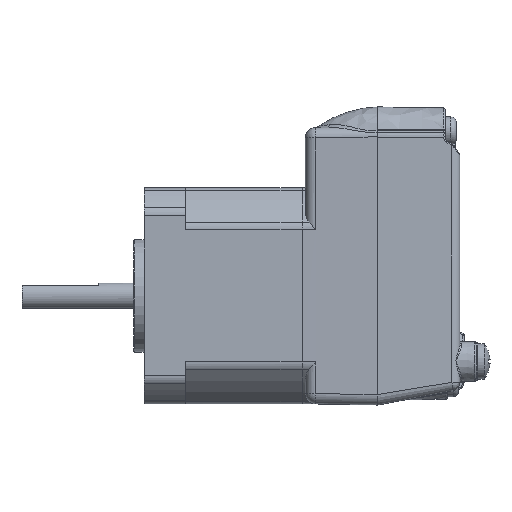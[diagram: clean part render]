
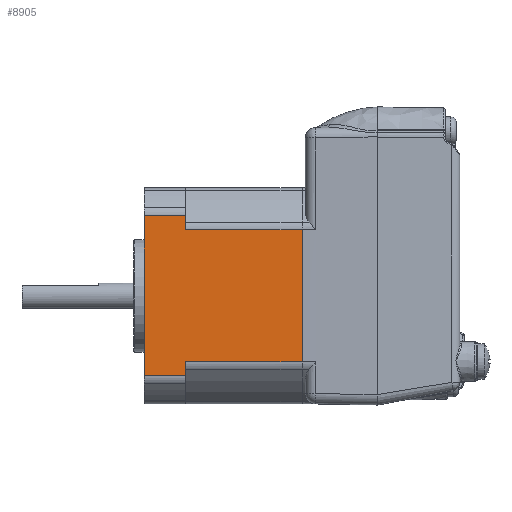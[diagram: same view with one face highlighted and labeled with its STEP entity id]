
A CAD part, left-side view. The second image highlights one B-rep face of the part: STEP entity #8905.
In plain terms, the highlighted planar face has unit normal (-1, 0, 0).
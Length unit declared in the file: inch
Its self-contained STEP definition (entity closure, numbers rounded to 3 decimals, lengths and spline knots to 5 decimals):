
#3035=CARTESIAN_POINT('',(-1.68441,2.4548,0.56285));
#3036=VERTEX_POINT('',#3035);
#3044=CARTESIAN_POINT('',(-1.68441,2.4548,0.45634));
#3045=VERTEX_POINT('',#3044);
#3046=CARTESIAN_POINT('',(-1.68441,2.4548,0.57473));
#3047=DIRECTION('',(0.,0.,1.));
#3048=VECTOR('',#3047,1.);
#3049=LINE('',#3046,#3048);
#3050=EDGE_CURVE('',#3045,#3036,#3049,.T.);
#3143=CARTESIAN_POINT('',(-1.68441,2.4548,-0.66862));
#3144=VERTEX_POINT('',#3143);
#3145=CARTESIAN_POINT('',(-1.68441,2.4548,-0.5621));
#3146=VERTEX_POINT('',#3145);
#3147=CARTESIAN_POINT('',(-1.68441,2.4548,0.57473));
#3148=DIRECTION('',(0.,0.,1.));
#3149=VECTOR('',#3148,1.);
#3150=LINE('',#3147,#3149);
#3151=EDGE_CURVE('',#3144,#3146,#3150,.T.);
#3297=CARTESIAN_POINT('',(-1.68441,2.7718,-0.66862));
#3298=VERTEX_POINT('',#3297);
#3306=CARTESIAN_POINT('',(-1.68441,2.7718,0.56285));
#3307=VERTEX_POINT('',#3306);
#3308=CARTESIAN_POINT('',(-1.68441,2.7718,0.57473));
#3309=DIRECTION('',(0.,0.,1.));
#3310=VECTOR('',#3309,1.);
#3311=LINE('',#3308,#3310);
#3312=EDGE_CURVE('',#3298,#3307,#3311,.T.);
#3444=CARTESIAN_POINT('',(-1.68441,2.7718,0.56285));
#3445=DIRECTION('',(0.,-1.,0.));
#3446=VECTOR('',#3445,1.);
#3447=LINE('',#3444,#3446);
#3448=EDGE_CURVE('',#3307,#3036,#3447,.T.);
#3737=CARTESIAN_POINT('',(-1.68441,2.7718,-0.66862));
#3738=DIRECTION('',(0.,1.,0.));
#3739=VECTOR('',#3738,1.);
#3740=LINE('',#3737,#3739);
#3741=EDGE_CURVE('',#3144,#3298,#3740,.T.);
#8598=CARTESIAN_POINT('',(-1.68444,1.55474,-0.5621));
#8599=VERTEX_POINT('',#8598);
#8600=CARTESIAN_POINT('',(-1.68441,1.57521,-0.5621));
#8601=DIRECTION('',(0.,1.,0.));
#8602=VECTOR('',#8601,1.);
#8603=LINE('',#8600,#8602);
#8604=EDGE_CURVE('',#8599,#3146,#8603,.T.);
#8854=CARTESIAN_POINT('',(-1.68438,1.55474,0.45633));
#8855=VERTEX_POINT('',#8854);
#8856=CARTESIAN_POINT('',(-1.68441,1.70281,0.45634));
#8857=DIRECTION('',(0.,1.,0.));
#8858=VECTOR('',#8857,1.);
#8859=LINE('',#8856,#8858);
#8860=EDGE_CURVE('',#8855,#3045,#8859,.T.);
#8885=ORIENTED_EDGE('',*,*,#3312,.F.);
#8886=ORIENTED_EDGE('',*,*,#3741,.F.);
#8887=ORIENTED_EDGE('',*,*,#3151,.T.);
#8888=ORIENTED_EDGE('',*,*,#8604,.F.);
#8889=CARTESIAN_POINT('',(-1.68438,1.55474,-0.33949));
#8890=DIRECTION('',(0.,0.,-1.));
#8891=VECTOR('',#8890,1.);
#8892=LINE('',#8889,#8891);
#8893=EDGE_CURVE('',#8855,#8599,#8892,.T.);
#8894=ORIENTED_EDGE('',*,*,#8893,.F.);
#8895=ORIENTED_EDGE('',*,*,#8860,.T.);
#8896=ORIENTED_EDGE('',*,*,#3050,.T.);
#8897=ORIENTED_EDGE('',*,*,#3448,.F.);
#8898=EDGE_LOOP('',(#8885,#8886,#8887,#8888,#8894,#8895,#8896,#8897));
#8899=FACE_OUTER_BOUND('',#8898,.T.);
#8900=CARTESIAN_POINT('',(-1.68441,1.57521,0.45633));
#8901=DIRECTION('',(-1.,0.,0.));
#8902=DIRECTION('',(0.,0.,1.));
#8903=AXIS2_PLACEMENT_3D('',#8900,#8901,#8902);
#8904=PLANE('',#8903);
#8905=ADVANCED_FACE('',(#8899),#8904,.T.);
